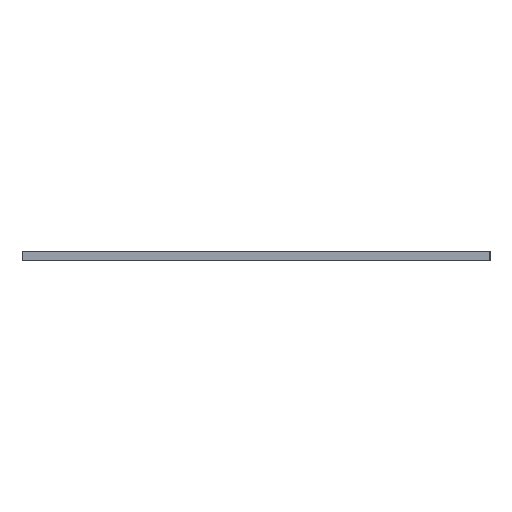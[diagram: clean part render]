
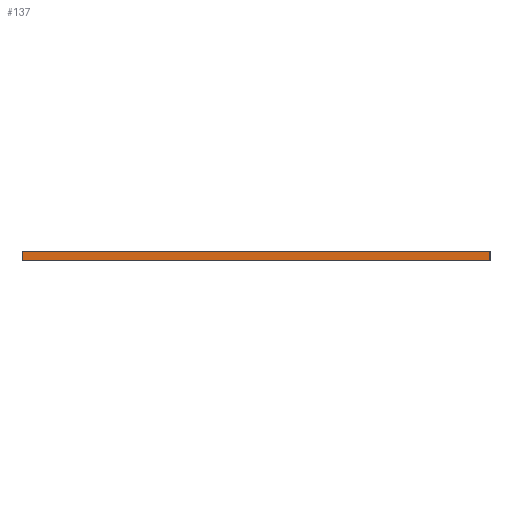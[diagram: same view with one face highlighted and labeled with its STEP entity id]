
A CAD part, left-side view. The second image highlights one B-rep face of the part: STEP entity #137.
In plain terms, the highlighted planar face has unit normal (-1, 0, 0).
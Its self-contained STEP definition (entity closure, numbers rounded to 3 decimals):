
#21 = EDGE_CURVE('',#22,#24,#26,.T.);
#22 = VERTEX_POINT('',#23);
#23 = CARTESIAN_POINT('',(0.,0.,0.));
#24 = VERTEX_POINT('',#25);
#25 = CARTESIAN_POINT('',(0.,0.,2.));
#26 = SURFACE_CURVE('',#27,(#31,#43),.PCURVE_S1.);
#27 = LINE('',#28,#29);
#28 = CARTESIAN_POINT('',(0.,0.,0.));
#29 = VECTOR('',#30,1.);
#30 = DIRECTION('',(0.,0.,1.));
#31 = PCURVE('',#32,#37);
#32 = PLANE('',#33);
#33 = AXIS2_PLACEMENT_3D('',#34,#35,#36);
#34 = CARTESIAN_POINT('',(0.,0.,0.));
#35 = DIRECTION('',(0.,1.,0.));
#36 = DIRECTION('',(1.,0.,0.));
#37 = DEFINITIONAL_REPRESENTATION('',(#38),#42);
#38 = LINE('',#39,#40);
#39 = CARTESIAN_POINT('',(0.,0.));
#40 = VECTOR('',#41,1.);
#41 = DIRECTION('',(0.,-1.));
#42 = ( GEOMETRIC_REPRESENTATION_CONTEXT(2) 
PARAMETRIC_REPRESENTATION_CONTEXT() REPRESENTATION_CONTEXT('2D SPACE',''
  ) );
#43 = PCURVE('',#44,#49);
#44 = PLANE('',#45);
#45 = AXIS2_PLACEMENT_3D('',#46,#47,#48);
#46 = CARTESIAN_POINT('',(0.,100.,0.));
#47 = DIRECTION('',(1.,0.,0.));
#48 = DIRECTION('',(0.,-1.,0.));
#49 = DEFINITIONAL_REPRESENTATION('',(#50),#54);
#50 = LINE('',#51,#52);
#51 = CARTESIAN_POINT('',(100.,0.));
#52 = VECTOR('',#53,1.);
#53 = DIRECTION('',(0.,-1.));
#54 = ( GEOMETRIC_REPRESENTATION_CONTEXT(2) 
PARAMETRIC_REPRESENTATION_CONTEXT() REPRESENTATION_CONTEXT('2D SPACE',''
  ) );
#72 = PLANE('',#73);
#73 = AXIS2_PLACEMENT_3D('',#74,#75,#76);
#74 = CARTESIAN_POINT('',(84.75,50.,2.));
#75 = DIRECTION('',(0.,0.,1.));
#76 = DIRECTION('',(1.,0.,0.));
#126 = PLANE('',#127);
#127 = AXIS2_PLACEMENT_3D('',#128,#129,#130);
#128 = CARTESIAN_POINT('',(84.75,50.,0.));
#129 = DIRECTION('',(0.,0.,1.));
#130 = DIRECTION('',(1.,0.,0.));
#137 = ADVANCED_FACE('',(#138),#44,.F.);
#138 = FACE_BOUND('',#139,.F.);
#139 = EDGE_LOOP('',(#140,#170,#191,#192));
#140 = ORIENTED_EDGE('',*,*,#141,.T.);
#141 = EDGE_CURVE('',#142,#144,#146,.T.);
#142 = VERTEX_POINT('',#143);
#143 = CARTESIAN_POINT('',(0.,100.,0.));
#144 = VERTEX_POINT('',#145);
#145 = CARTESIAN_POINT('',(0.,100.,2.));
#146 = SURFACE_CURVE('',#147,(#151,#158),.PCURVE_S1.);
#147 = LINE('',#148,#149);
#148 = CARTESIAN_POINT('',(0.,100.,0.));
#149 = VECTOR('',#150,1.);
#150 = DIRECTION('',(0.,0.,1.));
#151 = PCURVE('',#44,#152);
#152 = DEFINITIONAL_REPRESENTATION('',(#153),#157);
#153 = LINE('',#154,#155);
#154 = CARTESIAN_POINT('',(0.,0.));
#155 = VECTOR('',#156,1.);
#156 = DIRECTION('',(0.,-1.));
#157 = ( GEOMETRIC_REPRESENTATION_CONTEXT(2) 
PARAMETRIC_REPRESENTATION_CONTEXT() REPRESENTATION_CONTEXT('2D SPACE',''
  ) );
#158 = PCURVE('',#159,#164);
#159 = PLANE('',#160);
#160 = AXIS2_PLACEMENT_3D('',#161,#162,#163);
#161 = CARTESIAN_POINT('',(169.5,100.,0.));
#162 = DIRECTION('',(0.,-1.,0.));
#163 = DIRECTION('',(-1.,0.,0.));
#164 = DEFINITIONAL_REPRESENTATION('',(#165),#169);
#165 = LINE('',#166,#167);
#166 = CARTESIAN_POINT('',(169.5,0.));
#167 = VECTOR('',#168,1.);
#168 = DIRECTION('',(0.,-1.));
#169 = ( GEOMETRIC_REPRESENTATION_CONTEXT(2) 
PARAMETRIC_REPRESENTATION_CONTEXT() REPRESENTATION_CONTEXT('2D SPACE',''
  ) );
#170 = ORIENTED_EDGE('',*,*,#171,.T.);
#171 = EDGE_CURVE('',#144,#24,#172,.T.);
#172 = SURFACE_CURVE('',#173,(#177,#184),.PCURVE_S1.);
#173 = LINE('',#174,#175);
#174 = CARTESIAN_POINT('',(0.,100.,2.));
#175 = VECTOR('',#176,1.);
#176 = DIRECTION('',(0.,-1.,0.));
#177 = PCURVE('',#44,#178);
#178 = DEFINITIONAL_REPRESENTATION('',(#179),#183);
#179 = LINE('',#180,#181);
#180 = CARTESIAN_POINT('',(0.,-2.));
#181 = VECTOR('',#182,1.);
#182 = DIRECTION('',(1.,0.));
#183 = ( GEOMETRIC_REPRESENTATION_CONTEXT(2) 
PARAMETRIC_REPRESENTATION_CONTEXT() REPRESENTATION_CONTEXT('2D SPACE',''
  ) );
#184 = PCURVE('',#72,#185);
#185 = DEFINITIONAL_REPRESENTATION('',(#186),#190);
#186 = LINE('',#187,#188);
#187 = CARTESIAN_POINT('',(-84.75,50.));
#188 = VECTOR('',#189,1.);
#189 = DIRECTION('',(0.,-1.));
#190 = ( GEOMETRIC_REPRESENTATION_CONTEXT(2) 
PARAMETRIC_REPRESENTATION_CONTEXT() REPRESENTATION_CONTEXT('2D SPACE',''
  ) );
#191 = ORIENTED_EDGE('',*,*,#21,.F.);
#192 = ORIENTED_EDGE('',*,*,#193,.F.);
#193 = EDGE_CURVE('',#142,#22,#194,.T.);
#194 = SURFACE_CURVE('',#195,(#199,#206),.PCURVE_S1.);
#195 = LINE('',#196,#197);
#196 = CARTESIAN_POINT('',(0.,100.,0.));
#197 = VECTOR('',#198,1.);
#198 = DIRECTION('',(0.,-1.,0.));
#199 = PCURVE('',#44,#200);
#200 = DEFINITIONAL_REPRESENTATION('',(#201),#205);
#201 = LINE('',#202,#203);
#202 = CARTESIAN_POINT('',(0.,0.));
#203 = VECTOR('',#204,1.);
#204 = DIRECTION('',(1.,0.));
#205 = ( GEOMETRIC_REPRESENTATION_CONTEXT(2) 
PARAMETRIC_REPRESENTATION_CONTEXT() REPRESENTATION_CONTEXT('2D SPACE',''
  ) );
#206 = PCURVE('',#126,#207);
#207 = DEFINITIONAL_REPRESENTATION('',(#208),#212);
#208 = LINE('',#209,#210);
#209 = CARTESIAN_POINT('',(-84.75,50.));
#210 = VECTOR('',#211,1.);
#211 = DIRECTION('',(0.,-1.));
#212 = ( GEOMETRIC_REPRESENTATION_CONTEXT(2) 
PARAMETRIC_REPRESENTATION_CONTEXT() REPRESENTATION_CONTEXT('2D SPACE',''
  ) );
